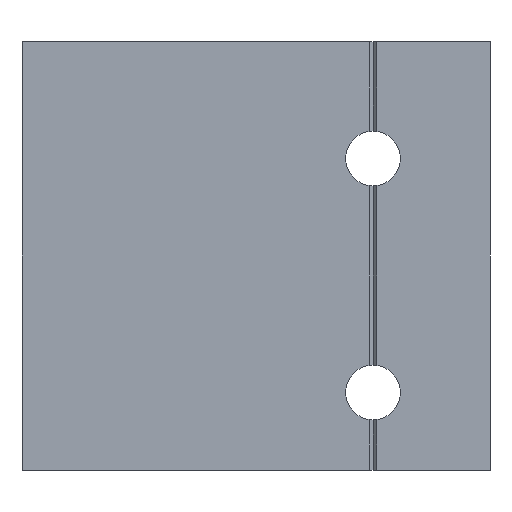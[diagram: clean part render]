
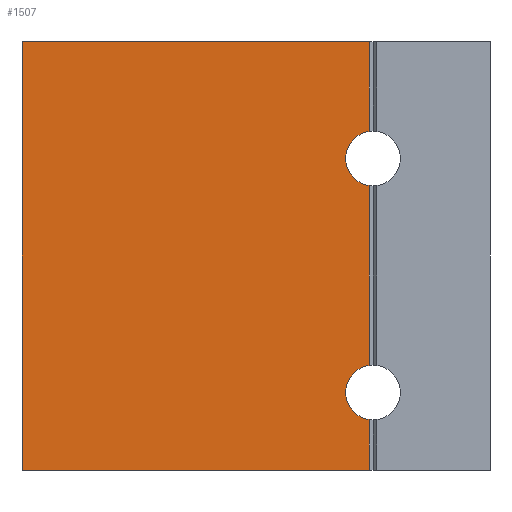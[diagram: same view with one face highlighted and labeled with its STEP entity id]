
A CAD part, front view. The second image highlights one B-rep face of the part: STEP entity #1507.
In plain terms, the highlighted planar face has unit normal (0, -1, 0).
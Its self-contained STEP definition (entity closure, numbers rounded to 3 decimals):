
#3 = ORIENTED_EDGE ( 'NONE', *, *, #536, .T. ) ;
#13 = DIRECTION ( 'NONE',  ( 0., 0., -1. ) ) ;
#26 = VECTOR ( 'NONE', #1819, 1000. ) ;
#47 = DIRECTION ( 'NONE',  ( -1., 0., 0. ) ) ;
#87 = ORIENTED_EDGE ( 'NONE', *, *, #1967, .T. ) ;
#134 = EDGE_CURVE ( 'NONE', #2476, #1282, #1788, .T. ) ;
#139 = EDGE_CURVE ( 'NONE', #1950, #984, #225, .T. ) ;
#213 = CARTESIAN_POINT ( 'NONE',  ( 14.5, -30., 5. ) ) ;
#225 = LINE ( 'NONE', #1370, #1848 ) ;
#252 = ORIENTED_EDGE ( 'NONE', *, *, #486, .F. ) ;
#403 = VERTEX_POINT ( 'NONE', #1127 ) ;
#407 = CARTESIAN_POINT ( 'NONE',  ( 14.5, -30., -6.536 ) ) ;
#425 = DIRECTION ( 'NONE',  ( 0., 0., -1. ) ) ;
#455 = DIRECTION ( 'NONE',  ( 1., 0., 0. ) ) ;
#486 = EDGE_CURVE ( 'NONE', #1513, #524, #1739, .T. ) ;
#524 = VERTEX_POINT ( 'NONE', #1955 ) ;
#536 = EDGE_CURVE ( 'NONE', #2476, #403, #978, .T. ) ;
#587 = CARTESIAN_POINT ( 'NONE',  ( 14.5, -30., 5. ) ) ;
#630 = VECTOR ( 'NONE', #13, 1000. ) ;
#634 = DIRECTION ( 'NONE',  ( 0., 0., -1. ) ) ;
#649 = LINE ( 'NONE', #1783, #26 ) ;
#714 = ORIENTED_EDGE ( 'NONE', *, *, #2036, .F. ) ;
#790 = CARTESIAN_POINT ( 'NONE',  ( 14.5, -30., 5. ) ) ;
#837 = FACE_OUTER_BOUND ( 'NONE', #2440, .T. ) ;
#888 = DIRECTION ( 'NONE',  ( 0., 1., 0. ) ) ;
#943 = CIRCLE ( 'NONE', #1426, 3.5 ) ;
#972 = VECTOR ( 'NONE', #1914, 1000. ) ;
#974 = CARTESIAN_POINT ( 'NONE',  ( 14.5, -30., -43.464 ) ) ;
#978 = LINE ( 'NONE', #213, #1519 ) ;
#984 = VERTEX_POINT ( 'NONE', #2130 ) ;
#1024 = AXIS2_PLACEMENT_3D ( 'NONE', #1587, #1044, #1199 ) ;
#1044 = DIRECTION ( 'NONE',  ( 0., 1., 0. ) ) ;
#1127 = CARTESIAN_POINT ( 'NONE',  ( -30., -30., 5. ) ) ;
#1199 = DIRECTION ( 'NONE',  ( 0., 0., 1. ) ) ;
#1251 = CARTESIAN_POINT ( 'NONE',  ( -30., -30., -50. ) ) ;
#1281 = CARTESIAN_POINT ( 'NONE',  ( 15., -30., -40. ) ) ;
#1282 = VERTEX_POINT ( 'NONE', #407 ) ;
#1338 = LINE ( 'NONE', #1710, #972 ) ;
#1370 = CARTESIAN_POINT ( 'NONE',  ( 14.5, -30., 5. ) ) ;
#1426 = AXIS2_PLACEMENT_3D ( 'NONE', #1281, #888, #2061 ) ;
#1507 = ADVANCED_FACE ( 'NONE', ( #837 ), #2007, .T. ) ;
#1513 = VERTEX_POINT ( 'NONE', #2045 ) ;
#1519 = VECTOR ( 'NONE', #47, 1000. ) ;
#1587 = CARTESIAN_POINT ( 'NONE',  ( 15., -30., -10. ) ) ;
#1605 = CARTESIAN_POINT ( 'NONE',  ( 14.5, -30., 5. ) ) ;
#1619 = ORIENTED_EDGE ( 'NONE', *, *, #2207, .T. ) ;
#1710 = CARTESIAN_POINT ( 'NONE',  ( -30., -30., 5. ) ) ;
#1739 = LINE ( 'NONE', #587, #630 ) ;
#1742 = ORIENTED_EDGE ( 'NONE', *, *, #139, .F. ) ;
#1783 = CARTESIAN_POINT ( 'NONE',  ( 14.5, -30., -50. ) ) ;
#1788 = LINE ( 'NONE', #790, #2286 ) ;
#1819 = DIRECTION ( 'NONE',  ( -1., 0., 0. ) ) ;
#1841 = CARTESIAN_POINT ( 'NONE',  ( 14.5, -30., 5. ) ) ;
#1848 = VECTOR ( 'NONE', #425, 1000. ) ;
#1867 = ORIENTED_EDGE ( 'NONE', *, *, #134, .F. ) ;
#1868 = AXIS2_PLACEMENT_3D ( 'NONE', #1605, #2379, #455 ) ;
#1882 = EDGE_CURVE ( 'NONE', #403, #2161, #1338, .T. ) ;
#1914 = DIRECTION ( 'NONE',  ( 0., 0., -1. ) ) ;
#1950 = VERTEX_POINT ( 'NONE', #974 ) ;
#1955 = CARTESIAN_POINT ( 'NONE',  ( 14.5, -30., -36.536 ) ) ;
#1967 = EDGE_CURVE ( 'NONE', #1513, #1282, #2436, .T. ) ;
#2007 = PLANE ( 'NONE',  #1868 ) ;
#2036 = EDGE_CURVE ( 'NONE', #984, #2161, #649, .T. ) ;
#2045 = CARTESIAN_POINT ( 'NONE',  ( 14.5, -30., -13.464 ) ) ;
#2061 = DIRECTION ( 'NONE',  ( 0., 0., 1. ) ) ;
#2130 = CARTESIAN_POINT ( 'NONE',  ( 14.5, -30., -50. ) ) ;
#2161 = VERTEX_POINT ( 'NONE', #1251 ) ;
#2207 = EDGE_CURVE ( 'NONE', #1950, #524, #943, .T. ) ;
#2228 = ORIENTED_EDGE ( 'NONE', *, *, #1882, .T. ) ;
#2286 = VECTOR ( 'NONE', #634, 1000. ) ;
#2379 = DIRECTION ( 'NONE',  ( 0., -1., 0. ) ) ;
#2436 = CIRCLE ( 'NONE', #1024, 3.5 ) ;
#2440 = EDGE_LOOP ( 'NONE', ( #1742, #1619, #252, #87, #1867, #3, #2228, #714 ) ) ;
#2476 = VERTEX_POINT ( 'NONE', #1841 ) ;
